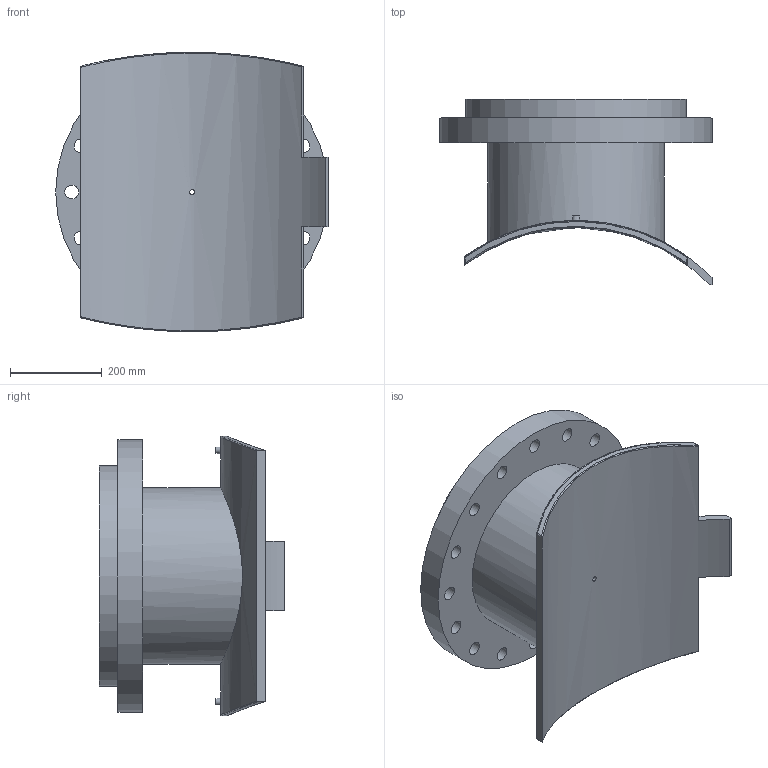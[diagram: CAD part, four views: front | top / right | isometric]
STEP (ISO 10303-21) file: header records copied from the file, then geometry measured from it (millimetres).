
FILE_DESCRIPTION(/* description */ ('PLASSON FLANGED BRANCH SADDLE 800X400'),/* implementation_level */ '2;1');
FILE_NAME(/* name */ 'C:\Dropbox\KIMPROJECTS-Inventor 2019\99-16-3568-Processing\ElectroFusion Fittings\495904_495903\stp\495903800400T.stp',/* time_stamp */ '2024-04-03T21:06:28+02:00',/* author */ ('KIM'),/* organization */ (''),/* preprocessor_version */ 'ST-DEVELOPER v17.2',/* originating_system */ 'Autodesk Inventor 2019',/* authorisation */ '');
FILE_SCHEMA (('AUTOMOTIVE_DESIGN { 1 0 10303 214 3 1 1 }'));
Length unit declared in the file: millimetre
Products named in the file (1): 495903800400T
Bounding box: 595 x 405.14 x 609.97 mm (x, y, z)
Volume: 24917210.9 mm3; surface area: 1754116.9 mm2
Topology: 1 solids, 1 shells, 66 faces, 175 edges, 134 vertices
Faces by surface type: cylinder 39, plane 17, sphere 4, bspline 4, cone 2
Full cylindrical faces by diameter (mm): 4 x2, 10 x2, 10.4 x1, 16 x1, 30 x16, 327 x1, 385.6 x1, 482 x1, 595 x1
Entity records: 2815 total; most frequent: CARTESIAN_POINT 1055, DIRECTION 353, ORIENTED_EDGE 322, EDGE_CURVE 161, AXIS2_PLACEMENT_3D 149, EDGE_LOOP 111, VERTEX_POINT 108, CIRCLE 86
